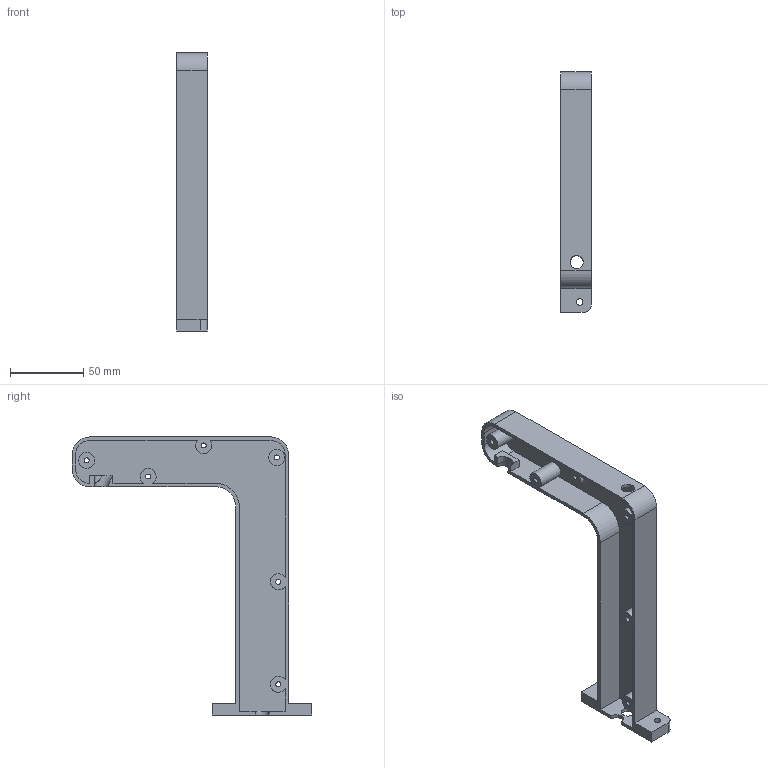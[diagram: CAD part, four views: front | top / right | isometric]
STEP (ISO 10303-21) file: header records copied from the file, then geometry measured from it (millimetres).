
FILE_DESCRIPTION(('FreeCAD Model'),'2;1');
FILE_NAME('Open CASCADE Shape Model','2026-10-31T13:49:49',('FreeCAD'),( 'FreeCAD'),'Open CASCADE STEP processor 7.8','FreeCAD','Unknown');
FILE_SCHEMA(('AUTOMOTIVE_DESIGN { 1 0 10303 214 1 1 1 1 }'));
Length unit declared in the file: millimetre
Products named in the file (1): Open CASCADE STEP translator 7.8 4
Bounding box: 21 x 164 x 190 mm (x, y, z)
Volume: 67983.6 mm3; surface area: 53011.1 mm2
Topology: 1 solids, 1 shells, 73 faces, 193 edges, 130 vertices
Faces by surface type: plane 36, cylinder 34, torus 2, extrusion 1
Full cylindrical faces by diameter (mm): 3.4 x6, 4.5 x2, 6 x6, 9 x2, 11 x2
Entity records: 2554 total; most frequent: CARTESIAN_POINT 616, DIRECTION 412, ORIENTED_EDGE 386, EDGE_CURVE 193, AXIS2_PLACEMENT_3D 151, VERTEX_POINT 130, VECTOR 110, LINE 109
